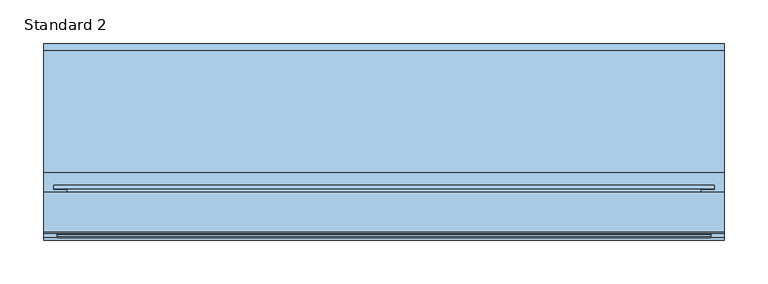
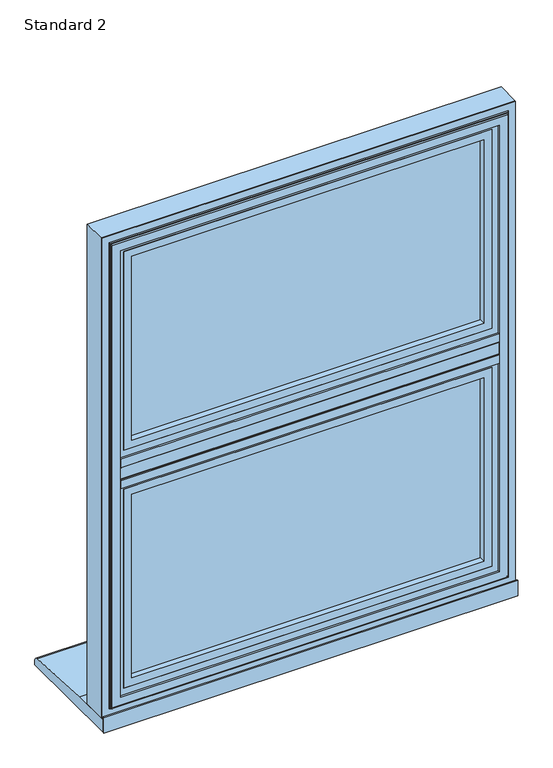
"""IFC4 building model written with IfcOpenShell, lengths in millimetres: window geometry, SMARTS_AlithermHeritage : Standard 2."""

from ifc_helpers import new_model, si_unit, point, frame, frame_2d, origin, place, context, project, spatial, polyline, circle_curve, ellipse_curve, trimmed, segment, composite_curve, outline, extrude, source, transform, mapped, element, save
from ifc_brep_helpers import plane_surface, cylinder_surface, revolved_surface, advanced_brep


def standard_2_19a095b1(model_context):
    return source(origin(), model_context, "Body", "SolidModel", [
        extrude(outline(polyline([(372.3058544, 95.2798432), (372.3058544, 47.279476), (-372.3058544, 47.279476), (-372.3058544, 95.2798432), (372.3058544, 95.2798432)])), frame((0.0, 0.0, 1098.8058544), z_axis=(0.0, 0.0, 1.0), x_axis=(1.0, 0.0, 0.0)), (0.0, 0.0, 1.0), 27.3882911),
        extrude(outline(composite_curve([segment(polyline([(47.279476, 1083.5), (43.2798432, 1083.5), (43.2798432, 1099.5)]), True, "CONTINUOUS"), segment(trimmed(circle_curve(frame_2d((44.2798432, 1099.5)), 1.0), [point((43.2798432, 1099.5))], [point((44.2798432, 1100.5))], False, "CARTESIAN"), True, "CONTINUOUS"), segment(polyline([(44.2798432, 1100.5), (45.7798432, 1100.5), (45.7798432, 1124.5), (44.2798432, 1124.5)]), True, "CONTINUOUS"), segment(trimmed(circle_curve(frame_2d((44.2798432, 1125.5)), 1.0), [point((44.2798432, 1124.5))], [point((43.2798432, 1125.5))], False, "CARTESIAN"), True, "CONTINUOUS"), segment(polyline([(43.2798432, 1125.5), (43.2798432, 1141.5), (47.279476, 1141.5), (47.279476, 1083.5)]), True, "CONTINUOUS")], self_intersect=False)), frame((-357.0, 0.0, 0.0), z_axis=(1.0, 0.0, 0.0), x_axis=(0.0, 1.0, 0.0)), (0.0, 0.0, 1.0), 714.0),
        extrude(outline(polyline([(-343.5, 89.2798432), (343.5, 89.2798432), (343.5, 85.2798432), (-343.5, 85.2798432), (-343.5, 89.2798432)])), frame((0.0, 0.0, 681.5), z_axis=(0.0, 0.0, 1.0), x_axis=(1.0, 0.0, 0.0)), (0.0, 0.0, 1.0), 388.5),
        extrude(outline(polyline([(-343.5, 69.2798432), (343.5, 69.2798432), (343.5, 65.2798432), (-343.5, 65.2798432), (-343.5, 69.2798432)])), frame((0.0, 0.0, 681.5), z_axis=(0.0, 0.0, 1.0), x_axis=(1.0, 0.0, 0.0)), (0.0, 0.0, 1.0), 388.5),
        extrude(outline(polyline([(1070.0, -343.5), (681.5, -343.5), (681.5, 343.5), (1070.0, 343.5), (1070.0, -343.5)]), holes=[polyline([(1060.0, 333.5), (691.5, 333.5), (691.5, -333.5), (1060.0, -333.5), (1060.0, 333.5)])]), frame((0.0, 69.2798432, 0.0), z_axis=(0.0, 1.0, 0.0), x_axis=(0.0, 0.0, 1.0)), (0.0, 0.0, 1.0), 16.0),
        extrude(outline(polyline([(1073.5052956, -347.0052956), (677.9947044, -347.0052956), (677.9947044, 347.0052956), (1073.5052956, 347.0052956), (1073.5052956, -347.0052956)]), holes=[polyline([(1058.5, 332.0), (693.0, 332.0), (693.0, -332.0), (1058.5, -332.0), (1058.5, 332.0)])]), frame((0.0, 51.2798432, 0.0), z_axis=(0.0, 1.0, 0.0), x_axis=(0.0, 0.0, 1.0)), (0.0, 0.0, 1.0), 11.3),
        extrude(outline(polyline([(662.3548042, -362.6451958), (662.3548042, 362.6451958), (1089.1451958, 362.6451958), (1089.1451958, -362.6451958), (662.3548042, -362.6451958)]), holes=[polyline([(1073.5, -347.0), (1073.5, 347.0), (678.0, 347.0), (678.0, -347.0), (1073.5, -347.0)])]), frame((0.0, 51.2798432, 0.0), z_axis=(0.0, 1.0, 0.0), x_axis=(0.0, 0.0, 1.0)), (0.0, 0.0, 1.0), 41.6),
        advanced_brep(
        [(-332.0, 98.0798432, 1058.5), (-332.0, 92.8798432, 1058.5), (-332.0, 92.8798432, 693.0), (-332.0, 98.0798432, 693.0), (332.0, 92.8798432, 693.0), (332.0, 98.0798432, 693.0), (332.0, 92.8798432, 1058.5), (332.0, 98.0798432, 1058.5), (-378.2, 99.2798432, 1104.7), (-378.2, 103.2798432, 1104.7), (-378.2, 103.2798432, 646.8), (-378.2, 99.2798432, 646.8), (378.2, 103.2798432, 646.8), (378.2, 99.2798432, 646.8), (378.2, 103.2798432, 1104.7), (378.2, 99.2798432, 1104.7), (-363.1467657, 99.2798432, 1089.6467657), (363.1467657, 99.2798432, 1089.6467657), (363.1467657, 99.2798432, 661.8532343), (-363.1467657, 99.2798432, 661.8532343), (-349.2, 103.2798432, 675.8), (349.2, 103.2798432, 675.8), (349.2, 103.2798432, 1075.7), (-349.2, 103.2798432, 1075.7), (-363.1467657, 92.8798432, 1089.6467657), (-363.1467657, 92.8798432, 661.8532343), (363.1467657, 92.8798432, 661.8532343), (363.1467657, 92.8798432, 1089.6467657), (-347.2, 101.2798432, 1073.7), (-347.2, 100.0798432, 1073.7), (-347.2, 100.0798432, 677.8), (-347.2, 101.2798432, 677.8), (-345.2, 98.0798432, 1071.7), (-345.2, 98.0798432, 679.8), (347.2, 100.0798432, 677.8), (347.2, 101.2798432, 677.8), (345.2, 98.0798432, 679.8), (347.2, 100.0798432, 1073.7), (347.2, 101.2798432, 1073.7), (345.2, 98.0798432, 1071.7)],
        [
            (0, 1),
            (1, 2),
            (2, 3),
            (3, 0),
            (2, 4),
            (4, 5),
            (5, 3),
            (4, 6),
            (6, 7),
            (7, 5),
            (6, 1),
            (0, 7),
            (8, 9),
            (9, 10),
            (10, 11),
            (11, 8),
            (10, 12),
            (12, 13),
            (13, 11),
            (12, 14),
            (14, 15),
            (15, 13),
            (15, 8),
            (16, 17),
            (17, 18),
            (18, 19),
            (19, 16),
            (14, 9),
            (20, 21),
            (21, 22),
            (22, 23),
            (23, 20),
            (24, 16),
            (19, 25),
            (25, 24),
            (18, 26),
            (26, 25),
            (17, 27),
            (27, 26),
            (27, 24),
            (28, 29),
            (29, 30),
            (30, 31),
            (31, 28),
            (29, 32, ellipse_curve(frame((-345.2, 100.0798432, 1071.7), z_axis=(0.7071067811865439, 0.0, 0.7071067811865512), x_axis=(0.7071067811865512, 0.0, -0.7071067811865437)), 2.8284271, 2.0)),
            (32, 33),
            (33, 30, ellipse_curve(frame((-345.2, 100.0798432, 679.8), z_axis=(0.7071067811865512, 0.0, -0.7071067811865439), x_axis=(-0.7071067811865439, 0.0, -0.707106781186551)), 2.8284271, 2.0)),
            (30, 34),
            (34, 35),
            (35, 31),
            (33, 36),
            (36, 34, ellipse_curve(frame((345.2, 100.0798432, 679.8), z_axis=(0.7071067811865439, 0.0, 0.7071067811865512), x_axis=(0.707106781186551, 0.0, -0.7071067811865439)), 2.8284271, 2.0)),
            (34, 37),
            (37, 38),
            (38, 35),
            (36, 39),
            (39, 37, ellipse_curve(frame((345.2, 100.0798432, 1071.7), z_axis=(-0.7071067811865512, 0.0, 0.7071067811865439), x_axis=(0.7071067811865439, 0.0, 0.707106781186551)), 2.8284271, 2.0)),
            (32, 39),
            (37, 29),
            (28, 38),
            (23, 28, ellipse_curve(frame((-349.2, 101.2798432, 1075.7), z_axis=(-0.7071067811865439, 0.0, -0.7071067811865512), x_axis=(-0.7071067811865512, 0.0, 0.7071067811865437)), 2.8284271, 2.0)),
            (31, 20, ellipse_curve(frame((-349.2, 101.2798432, 675.8), z_axis=(-0.7071067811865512, 0.0, 0.7071067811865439), x_axis=(0.7071067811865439, 0.0, 0.707106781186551)), 2.8284271, 2.0)),
            (35, 21, ellipse_curve(frame((349.2, 101.2798432, 675.8), z_axis=(-0.7071067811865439, 0.0, -0.7071067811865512), x_axis=(-0.707106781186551, 0.0, 0.7071067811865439)), 2.8284271, 2.0)),
            (38, 22, ellipse_curve(frame((349.2, 101.2798432, 1075.7), z_axis=(0.7071067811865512, 0.0, -0.7071067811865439), x_axis=(-0.7071067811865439, 0.0, -0.707106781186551)), 2.8284271, 2.0)),
        ],
        [
            plane_surface(frame((-332.0, 92.8798432, 1058.5), z_axis=(1.0, 0.0, 0.0), x_axis=(0.0, 0.0, -1.0))),
            plane_surface(frame((-332.0, 92.8798432, 693.0), z_axis=(0.0, 0.0, 1.0), x_axis=(1.0, 0.0, 0.0))),
            plane_surface(frame((332.0, 92.8798432, 693.0), z_axis=(-1.0, 0.0, 0.0), x_axis=(0.0, 0.0, 1.0))),
            plane_surface(frame((332.0, 92.8798432, 1058.5), z_axis=(0.0, 0.0, -1.0), x_axis=(-1.0, 0.0, 0.0))),
            plane_surface(frame((-378.2, 103.2798432, 1104.7), z_axis=(-1.0, 0.0, 0.0), x_axis=(0.0, 0.0, -1.0))),
            plane_surface(frame((-378.2, 103.2798432, 646.8), z_axis=(0.0, 0.0, -1.0), x_axis=(1.0, 0.0, 0.0))),
            plane_surface(frame((378.2, 103.2798432, 646.8), z_axis=(1.0, 0.0, 0.0), x_axis=(0.0, 0.0, 1.0))),
            plane_surface(frame((378.2, 99.2798432, 1104.7), z_axis=(0.0, -1.0, 0.0), x_axis=(-1.0, 0.0, 0.0))),
            plane_surface(frame((378.2, 103.2798432, 1104.7), z_axis=(0.0, 0.0, 1.0), x_axis=(-1.0, 0.0, 0.0))),
            plane_surface(frame((349.2, 103.2798432, 1075.7), z_axis=(0.0, 1.0, 0.0), x_axis=(-1.0, 0.0, 0.0))),
            plane_surface(frame((-363.1467657, 99.2798432, 1089.6467657), z_axis=(-1.0, 0.0, 0.0), x_axis=(0.0, 0.0, -1.0))),
            plane_surface(frame((-363.1467657, 99.2798432, 661.8532343), z_axis=(0.0, 0.0, -1.0), x_axis=(1.0, 0.0, 0.0))),
            plane_surface(frame((363.1467657, 99.2798432, 661.8532343), z_axis=(1.0, 0.0, 0.0), x_axis=(0.0, 0.0, 1.0))),
            plane_surface(frame((363.1467657, 92.8798432, 1089.6467657), z_axis=(0.0, -1.0, 0.0), x_axis=(-1.0, 0.0, 0.0))),
            plane_surface(frame((363.1467657, 99.2798432, 1089.6467657), z_axis=(0.0, 0.0, 1.0), x_axis=(-1.0, 0.0, 0.0))),
            plane_surface(frame((-347.2, 100.0798432, 1073.7), z_axis=(1.0, 0.0, 0.0), x_axis=(0.0, 0.0, -1.0))),
            revolved_surface(polyline([(-347.2, 100.0798432, 677.8), (-347.2, 100.0798432, 1073.7)]), (-345.2, 100.0798432, 1083.5), (0.0, 0.0, -1.0)),
            plane_surface(frame((-347.2, 100.0798432, 677.8), z_axis=(0.0, 0.0, 1.0), x_axis=(1.0, 0.0, 0.0))),
            revolved_surface(polyline([(347.20000000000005, 100.0798432, 677.8), (-347.2, 100.0798432, 677.8)]), (-357.0, 100.0798432, 679.8), (1.0, 0.0, 0.0)),
            plane_surface(frame((347.2, 100.0798432, 677.8), z_axis=(-1.0, 0.0, 0.0), x_axis=(0.0, 0.0, 1.0))),
            revolved_surface(polyline([(347.2, 100.0798432, 1073.7), (347.2, 100.0798432, 677.8)]), (345.2, 100.0798432, 668.0), (0.0, 0.0, 1.0)),
            plane_surface(frame((332.0, 98.0798432, 1058.5), z_axis=(0.0, 1.0, 0.0), x_axis=(-1.0, 0.0, 0.0))),
            plane_surface(frame((347.2, 100.0798432, 1073.7), z_axis=(0.0, 0.0, -1.0), x_axis=(-1.0, 0.0, 0.0))),
            revolved_surface(polyline([(-347.20000000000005, 100.0798432, 1073.7), (347.2, 100.0798432, 1073.7)]), (357.0, 100.0798432, 1071.7), (-1.0, 0.0, 0.0)),
            cylinder_surface(frame((-349.2, 101.2798432, 1083.5), z_axis=(0.0, 0.0, 1.0), x_axis=(-1.0, 0.0, 0.0)), 2.0),
            cylinder_surface(frame((-357.0, 101.2798432, 675.8), z_axis=(-1.0, 0.0, 0.0), x_axis=(0.0, 0.0, -1.0)), 2.0),
            cylinder_surface(frame((349.2, 101.2798432, 668.0), z_axis=(0.0, 0.0, -1.0), x_axis=(1.0, 0.0, 0.0)), 2.0),
            cylinder_surface(frame((357.0, 101.2798432, 1075.7), z_axis=(1.0, 0.0, 0.0), x_axis=(0.0, 0.0, 1.0)), 2.0),
        ],
        [
            (0, [[1, 2, 3, 4]]),
            (1, [[-3, 5, 6, 7]]),
            (2, [[-6, 8, 9, 10]]),
            (3, [[-9, 11, -1, 12]]),
            (4, [[13, 14, 15, 16]]),
            (5, [[-15, 17, 18, 19]]),
            (6, [[-18, 20, 21, 22]]),
            (7, [[-19, -22, 23, -16], [24, 25, 26, 27]]),
            (8, [[-21, 28, -13, -23]]),
            (9, [[-28, -20, -17, -14], [29, 30, 31, 32]]),
            (10, [[33, -27, 34, 35]]),
            (11, [[-34, -26, 36, 37]]),
            (12, [[-36, -25, 38, 39]]),
            (13, [[-37, -39, 40, -35], [-11, -8, -5, -2]]),
            (14, [[-38, -24, -33, -40]]),
            (15, [[41, 42, 43, 44]]),
            (16, [[45, 46, 47, -42]]),
            (17, [[-43, 48, 49, 50]]),
            (18, [[-47, 51, 52, -48]]),
            (19, [[-49, 53, 54, 55]]),
            (20, [[-52, 56, 57, -53]]),
            (21, [[58, -56, -51, -46], [-7, -10, -12, -4]]),
            (22, [[-54, 59, -41, 60]]),
            (23, [[-57, -58, -45, -59]]),
            (24, [[61, -44, 62, -32]]),
            (25, [[-62, -50, 63, -29]]),
            (26, [[-63, -55, 64, -30]]),
            (27, [[-64, -60, -61, -31]]),
        ],
    ),
        extrude(outline(polyline([(1590.0, 390.0), (1590.0, -390.0), (635.0, -390.0), (635.0, 390.0), (1590.0, 390.0)]), holes=[polyline([(652.7000182, 372.2999818), (652.7000182, -372.2999818), (1572.2999818, -372.2999818), (1572.2999818, 372.2999818), (652.7000182, 372.2999818)])]), frame((0.0, 50.279857, 0.0), z_axis=(0.0, 1.0, 0.0), x_axis=(0.0, 0.0, 1.0)), (0.0, 0.0, 1.0), 44.9999962),
        advanced_brep(
        [(357.0, 43.2798432, 1557.0), (357.0, 47.2798432, 1557.0), (357.0, 47.2798432, 668.0), (357.0, 43.2798432, 668.0), (390.0, 50.279857, 1590.0), (390.0, 48.279857, 1590.0), (390.0, 48.279857, 635.0), (390.0, 50.279857, 635.0), (372.4999818, 43.2798432, 1572.4999818), (-372.4999818, 43.2798432, 1572.4999818), (-372.4999818, 43.2798432, 652.5000182), (372.4999818, 43.2798432, 652.5000182), (-357.0, 43.2798432, 668.0), (-357.0, 43.2798432, 1557.0), (-390.0, 50.279857, 1590.0), (-390.0, 48.279857, 1590.0), (-390.0, 50.279857, 635.0), (372.2999818, 50.279857, 1572.2999818), (-372.2999818, 50.279857, 1572.2999818), (-372.2999818, 50.279857, 652.7000182), (372.2999818, 50.279857, 652.7000182), (-357.0, 47.2798432, 1557.0), (-357.0, 47.2798432, 668.0), (-390.0, 48.279857, 635.0), (-372.2999818, 47.2798432, 1572.2999818), (372.2999818, 47.2798432, 1572.2999818), (372.2999818, 47.2798432, 652.7000182), (374.4999818, 46.779857, 650.5000182), (374.4999818, 45.2798432, 650.5000182), (-374.4999818, 45.2798432, 650.5000182), (-374.4999818, 46.779857, 650.5000182), (374.4999818, 46.779857, 1574.4999818), (374.4999818, 45.2798432, 1574.4999818), (-372.2999818, 47.2798432, 652.7000182), (-374.4999818, 45.2798432, 1574.4999818), (-374.4999818, 46.779857, 1574.4999818), (375.9999818, 48.279857, 1575.9999818), (375.9999818, 48.279857, 649.0000182), (-375.9999818, 48.279857, 649.0000182), (-375.9999818, 48.279857, 1575.9999818)],
        [
            (0, 1),
            (1, 2),
            (2, 3),
            (3, 0),
            (4, 5),
            (5, 6),
            (6, 7),
            (7, 4),
            (8, 9),
            (9, 10),
            (10, 11),
            (11, 8),
            (3, 12),
            (12, 13),
            (13, 0),
            (14, 15),
            (15, 5),
            (4, 14),
            (7, 16),
            (16, 14),
            (17, 18),
            (18, 19),
            (19, 20),
            (20, 17),
            (13, 21),
            (21, 1),
            (2, 22),
            (22, 12),
            (22, 21),
            (6, 23),
            (23, 16),
            (23, 15),
            (24, 18),
            (17, 25),
            (25, 24),
            (20, 26),
            (26, 25),
            (27, 28),
            (28, 29),
            (29, 30),
            (30, 27),
            (31, 32),
            (32, 28),
            (27, 31),
            (19, 33),
            (33, 26),
            (24, 33),
            (29, 34),
            (34, 35),
            (35, 30),
            (34, 32),
            (31, 35),
            (36, 31, ellipse_curve(frame((375.9999818, 46.779857, 1575.9999818), z_axis=(-0.7071067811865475, 0.0, 0.7071067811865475), x_axis=(-0.7071067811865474, 0.0, -0.7071067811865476)), 2.1213203, 1.5)),
            (27, 37, ellipse_curve(frame((375.9999818, 46.779857, 649.0000182), z_axis=(-0.7071067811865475, 0.0, -0.7071067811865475), x_axis=(0.7071067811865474, 0.0, -0.7071067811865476)), 2.1213203, 1.5)),
            (37, 36),
            (30, 38, ellipse_curve(frame((-375.9999818, 46.779857, 649.0000182), z_axis=(-0.7071067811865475, 0.0, 0.7071067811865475), x_axis=(-0.7071067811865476, 0.0, -0.7071067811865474)), 2.1213203, 1.5)),
            (38, 37),
            (35, 39, ellipse_curve(frame((-375.9999818, 46.779857, 1575.9999818), z_axis=(0.7071067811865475, 0.0, 0.7071067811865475), x_axis=(-0.7071067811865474, 0.0, 0.7071067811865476)), 2.1213203, 1.5)),
            (39, 38),
            (36, 39),
            (32, 8, ellipse_curve(frame((372.4999818, 45.2798432, 1572.4999818), z_axis=(0.7071067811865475, 0.0, -0.7071067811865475), x_axis=(0.7071067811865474, 0.0, 0.7071067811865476)), 2.8284271, 2.0)),
            (11, 28, ellipse_curve(frame((372.4999818, 45.2798432, 652.5000182), z_axis=(0.7071067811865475, 0.0, 0.7071067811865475), x_axis=(-0.7071067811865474, 0.0, 0.7071067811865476)), 2.8284271, 2.0)),
            (10, 29, ellipse_curve(frame((-372.4999818, 45.2798432, 652.5000182), z_axis=(0.7071067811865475, 0.0, -0.7071067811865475), x_axis=(0.7071067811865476, 0.0, 0.7071067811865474)), 2.8284271, 2.0)),
            (9, 34, ellipse_curve(frame((-372.4999818, 45.2798432, 1572.4999818), z_axis=(-0.7071067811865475, 0.0, -0.7071067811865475), x_axis=(0.7071067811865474, 0.0, -0.7071067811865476)), 2.8284271, 2.0)),
        ],
        [
            plane_surface(frame((357.0, 47.2798432, 1557.0), z_axis=(-1.0, 0.0, 0.0), x_axis=(0.0, 0.0, -1.0))),
            plane_surface(frame((390.0, 48.279857, 1590.0), z_axis=(1.0, 0.0, 0.0), x_axis=(0.0, 0.0, -1.0))),
            plane_surface(frame((-357.0, 43.2798432, 1557.0), z_axis=(0.0, -1.0, 0.0), x_axis=(1.0, 0.0, 0.0))),
            plane_surface(frame((-390.0, 48.279857, 1590.0), z_axis=(0.0, 0.0, 1.0), x_axis=(1.0, 0.0, 0.0))),
            plane_surface(frame((-390.0, 50.279857, 1590.0), z_axis=(0.0, 1.0, 0.0), x_axis=(1.0, 0.0, 0.0))),
            plane_surface(frame((-357.0, 47.2798432, 1557.0), z_axis=(0.0, 0.0, -1.0), x_axis=(1.0, 0.0, 0.0))),
            plane_surface(frame((357.0, 47.2798432, 668.0), z_axis=(0.0, 0.0, 1.0), x_axis=(-1.0, 0.0, 0.0))),
            plane_surface(frame((-357.0, 47.2798432, 668.0), z_axis=(1.0, 0.0, 0.0), x_axis=(0.0, 0.0, 1.0))),
            plane_surface(frame((390.0, 48.279857, 635.0), z_axis=(0.0, 0.0, -1.0), x_axis=(-1.0, 0.0, 0.0))),
            plane_surface(frame((-390.0, 48.279857, 635.0), z_axis=(-1.0, 0.0, 0.0), x_axis=(0.0, 0.0, 1.0))),
            plane_surface(frame((-372.2999818, 50.279857, 1572.2999818), z_axis=(0.0, 0.0, -1.0), x_axis=(1.0, 0.0, 0.0))),
            plane_surface(frame((372.2999818, 50.279857, 1572.2999818), z_axis=(-1.0, 0.0, 0.0), x_axis=(0.0, 0.0, -1.0))),
            plane_surface(frame((374.4999818, 45.2798432, 650.5000182), z_axis=(0.0, 0.0, -1.0), x_axis=(-1.0, 0.0, 0.0))),
            plane_surface(frame((374.4999818, 45.2798432, 1574.4999818), z_axis=(1.0, 0.0, 0.0), x_axis=(0.0, 0.0, -1.0))),
            plane_surface(frame((372.2999818, 50.279857, 652.7000182), z_axis=(0.0, 0.0, 1.0), x_axis=(-1.0, 0.0, 0.0))),
            plane_surface(frame((-372.2999818, 50.279857, 652.7000182), z_axis=(1.0, 0.0, 0.0), x_axis=(0.0, 0.0, 1.0))),
            plane_surface(frame((-374.4999818, 45.2798432, 650.5000182), z_axis=(-1.0, 0.0, 0.0), x_axis=(0.0, 0.0, 1.0))),
            plane_surface(frame((-372.2999818, 47.2798432, 1572.2999818), z_axis=(0.0, 1.0, 0.0), x_axis=(1.0, 0.0, 0.0))),
            plane_surface(frame((-374.4999818, 45.2798432, 1574.4999818), z_axis=(0.0, 0.0, 1.0), x_axis=(1.0, 0.0, 0.0))),
            revolved_surface(polyline([(374.4999818, 46.779857, 647.5000182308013), (374.4999818, 46.779857, 1577.4999817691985)]), (375.9999818, 46.779857, 1590.0), (0.0, 0.0, -1.0)),
            revolved_surface(polyline([(-377.4999817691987, 46.779857, 650.5000182), (377.49998176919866, 46.779857, 650.5000182)]), (390.0, 46.779857, 649.0000182), (-1.0, 0.0, 0.0)),
            revolved_surface(polyline([(-374.4999818, 46.779857, 1577.4999817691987), (-374.4999818, 46.779857, 647.5000182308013)]), (-375.9999818, 46.779857, 635.0), (0.0, 0.0, 1.0)),
            revolved_surface(polyline([(377.4999817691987, 46.779857, 1574.4999818), (-377.49998176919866, 46.779857, 1574.4999818)]), (-390.0, 46.779857, 1575.9999818), (1.0, 0.0, 0.0)),
            plane_surface(frame((-375.9999818, 48.279857, 1575.9999818), z_axis=(0.0, -1.0, 0.0), x_axis=(1.0, 0.0, 0.0))),
            cylinder_surface(frame((372.4999818, 45.2798432, 1590.0), z_axis=(0.0, 0.0, 1.0), x_axis=(-1.0, 0.0, 0.0)), 2.0),
            cylinder_surface(frame((390.0, 45.2798432, 652.5000182), z_axis=(1.0, 0.0, 0.0), x_axis=(0.0, 0.0, 1.0)), 2.0),
            cylinder_surface(frame((-372.4999818, 45.2798432, 635.0), z_axis=(0.0, 0.0, -1.0), x_axis=(1.0, 0.0, 0.0)), 2.0),
            cylinder_surface(frame((-390.0, 45.2798432, 1572.4999818), z_axis=(-1.0, 0.0, 0.0), x_axis=(0.0, 0.0, -1.0)), 2.0),
        ],
        [
            (0, [[1, 2, 3, 4]]),
            (1, [[5, 6, 7, 8]]),
            (2, [[9, 10, 11, 12], [13, 14, 15, -4]]),
            (3, [[16, 17, -5, 18]]),
            (4, [[19, 20, -18, -8], [21, 22, 23, 24]]),
            (5, [[25, 26, -1, -15]]),
            (6, [[-3, 27, 28, -13]]),
            (7, [[-28, 29, -25, -14]]),
            (8, [[-7, 30, 31, -19]]),
            (9, [[-31, 32, -16, -20]]),
            (10, [[33, -21, 34, 35]]),
            (11, [[-34, -24, 36, 37]]),
            (12, [[38, 39, 40, 41]]),
            (13, [[42, 43, -38, 44]]),
            (14, [[-36, -23, 45, 46]]),
            (15, [[-45, -22, -33, 47]]),
            (16, [[-40, 48, 49, 50]]),
            (17, [[-46, -47, -35, -37], [-26, -29, -27, -2]]),
            (18, [[-49, 51, -42, 52]]),
            (19, [[53, -44, 54, 55]]),
            (20, [[-54, -41, 56, 57]]),
            (21, [[-56, -50, 58, 59]]),
            (22, [[-58, -52, -53, 60]]),
            (23, [[-17, -32, -30, -6], [-57, -59, -60, -55]]),
            (24, [[61, -12, 62, -43]]),
            (25, [[-62, -11, 63, -39]]),
            (26, [[-63, -10, 64, -48]]),
            (27, [[-64, -9, -61, -51]]),
        ],
    ),
        extrude(outline(polyline([(-343.5, 89.2798432), (343.5, 89.2798432), (343.5, 85.2798432), (-343.5, 85.2798432), (-343.5, 89.2798432)])), frame((0.0, 0.0, 1155.0), z_axis=(0.0, 0.0, 1.0), x_axis=(1.0, 0.0, 0.0)), (0.0, 0.0, 1.0), 388.5),
        extrude(outline(polyline([(-343.5, 69.2798432), (343.5, 69.2798432), (343.5, 65.2798432), (-343.5, 65.2798432), (-343.5, 69.2798432)])), frame((0.0, 0.0, 1155.0), z_axis=(0.0, 0.0, 1.0), x_axis=(1.0, 0.0, 0.0)), (0.0, 0.0, 1.0), 388.5),
        extrude(outline(polyline([(1543.5, -343.5), (1155.0, -343.5), (1155.0, 343.5), (1543.5, 343.5), (1543.5, -343.5)]), holes=[polyline([(1533.5, 333.5), (1165.0, 333.5), (1165.0, -333.5), (1533.5, -333.5), (1533.5, 333.5)])]), frame((0.0, 69.2798432, 0.0), z_axis=(0.0, 1.0, 0.0), x_axis=(0.0, 0.0, 1.0)), (0.0, 0.0, 1.0), 16.0),
        extrude(outline(polyline([(1547.0052956, -347.0052956), (1151.4947044, -347.0052956), (1151.4947044, 347.0052956), (1547.0052956, 347.0052956), (1547.0052956, -347.0052956)]), holes=[polyline([(1532.0, 332.0), (1166.5, 332.0), (1166.5, -332.0), (1532.0, -332.0), (1532.0, 332.0)])]), frame((0.0, 51.2798432, 0.0), z_axis=(0.0, 1.0, 0.0), x_axis=(0.0, 0.0, 1.0)), (0.0, 0.0, 1.0), 11.3),
        extrude(outline(polyline([(1135.8548042, -362.6451958), (1135.8548042, 362.6451958), (1562.6451958, 362.6451958), (1562.6451958, -362.6451958), (1135.8548042, -362.6451958)]), holes=[polyline([(1547.0, -347.0), (1547.0, 347.0), (1151.5, 347.0), (1151.5, -347.0), (1547.0, -347.0)])]), frame((0.0, 51.2798432, 0.0), z_axis=(0.0, 1.0, 0.0), x_axis=(0.0, 0.0, 1.0)), (0.0, 0.0, 1.0), 41.6),
        advanced_brep(
        [(-332.0, 98.0798432, 1532.0), (-332.0, 92.8798432, 1532.0), (-332.0, 92.8798432, 1166.5), (-332.0, 98.0798432, 1166.5), (332.0, 92.8798432, 1166.5), (332.0, 98.0798432, 1166.5), (332.0, 92.8798432, 1532.0), (332.0, 98.0798432, 1532.0), (-378.2, 99.2798432, 1578.2), (-378.2, 103.2798432, 1578.2), (-378.2, 103.2798432, 1120.3), (-378.2, 99.2798432, 1120.3), (378.2, 103.2798432, 1120.3), (378.2, 99.2798432, 1120.3), (378.2, 103.2798432, 1578.2), (378.2, 99.2798432, 1578.2), (-363.1467657, 99.2798432, 1563.1467657), (363.1467657, 99.2798432, 1563.1467657), (363.1467657, 99.2798432, 1135.3532343), (-363.1467657, 99.2798432, 1135.3532343), (-349.2, 103.2798432, 1149.3), (349.2, 103.2798432, 1149.3), (349.2, 103.2798432, 1549.2), (-349.2, 103.2798432, 1549.2), (-363.1467657, 92.8798432, 1563.1467657), (-363.1467657, 92.8798432, 1135.3532343), (363.1467657, 92.8798432, 1135.3532343), (363.1467657, 92.8798432, 1563.1467657), (-347.2, 101.2798432, 1547.2), (-347.2, 100.0798432, 1547.2), (-347.2, 100.0798432, 1151.3), (-347.2, 101.2798432, 1151.3), (-345.2, 98.0798432, 1545.2), (-345.2, 98.0798432, 1153.3), (347.2, 100.0798432, 1151.3), (347.2, 101.2798432, 1151.3), (345.2, 98.0798432, 1153.3), (347.2, 100.0798432, 1547.2), (347.2, 101.2798432, 1547.2), (345.2, 98.0798432, 1545.2)],
        [
            (0, 1),
            (1, 2),
            (2, 3),
            (3, 0),
            (2, 4),
            (4, 5),
            (5, 3),
            (4, 6),
            (6, 7),
            (7, 5),
            (6, 1),
            (0, 7),
            (8, 9),
            (9, 10),
            (10, 11),
            (11, 8),
            (10, 12),
            (12, 13),
            (13, 11),
            (12, 14),
            (14, 15),
            (15, 13),
            (15, 8),
            (16, 17),
            (17, 18),
            (18, 19),
            (19, 16),
            (14, 9),
            (20, 21),
            (21, 22),
            (22, 23),
            (23, 20),
            (24, 16),
            (19, 25),
            (25, 24),
            (18, 26),
            (26, 25),
            (17, 27),
            (27, 26),
            (27, 24),
            (28, 29),
            (29, 30),
            (30, 31),
            (31, 28),
            (29, 32, ellipse_curve(frame((-345.2, 100.0798432, 1545.2), z_axis=(0.7071067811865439, 0.0, 0.7071067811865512), x_axis=(0.7071067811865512, 0.0, -0.7071067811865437)), 2.8284271, 2.0)),
            (32, 33),
            (33, 30, ellipse_curve(frame((-345.2, 100.0798432, 1153.3), z_axis=(0.7071067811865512, 0.0, -0.7071067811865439), x_axis=(-0.7071067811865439, 0.0, -0.707106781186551)), 2.8284271, 2.0)),
            (30, 34),
            (34, 35),
            (35, 31),
            (33, 36),
            (36, 34, ellipse_curve(frame((345.2, 100.0798432, 1153.3), z_axis=(0.7071067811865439, 0.0, 0.7071067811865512), x_axis=(0.707106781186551, 0.0, -0.7071067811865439)), 2.8284271, 2.0)),
            (34, 37),
            (37, 38),
            (38, 35),
            (36, 39),
            (39, 37, ellipse_curve(frame((345.2, 100.0798432, 1545.2), z_axis=(-0.7071067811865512, 0.0, 0.7071067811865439), x_axis=(0.7071067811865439, 0.0, 0.707106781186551)), 2.8284271, 2.0)),
            (32, 39),
            (37, 29),
            (28, 38),
            (23, 28, ellipse_curve(frame((-349.2, 101.2798432, 1549.2), z_axis=(-0.7071067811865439, 0.0, -0.7071067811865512), x_axis=(-0.7071067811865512, 0.0, 0.7071067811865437)), 2.8284271, 2.0)),
            (31, 20, ellipse_curve(frame((-349.2, 101.2798432, 1149.3), z_axis=(-0.7071067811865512, 0.0, 0.7071067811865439), x_axis=(0.7071067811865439, 0.0, 0.707106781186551)), 2.8284271, 2.0)),
            (35, 21, ellipse_curve(frame((349.2, 101.2798432, 1149.3), z_axis=(-0.7071067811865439, 0.0, -0.7071067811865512), x_axis=(-0.707106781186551, 0.0, 0.7071067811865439)), 2.8284271, 2.0)),
            (38, 22, ellipse_curve(frame((349.2, 101.2798432, 1549.2), z_axis=(0.7071067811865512, 0.0, -0.7071067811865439), x_axis=(-0.7071067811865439, 0.0, -0.707106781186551)), 2.8284271, 2.0)),
        ],
        [
            plane_surface(frame((-332.0, 92.8798432, 1532.0), z_axis=(1.0, 0.0, 0.0), x_axis=(0.0, 0.0, -1.0))),
            plane_surface(frame((-332.0, 92.8798432, 1166.5), z_axis=(0.0, 0.0, 1.0), x_axis=(1.0, 0.0, 0.0))),
            plane_surface(frame((332.0, 92.8798432, 1166.5), z_axis=(-1.0, 0.0, 0.0), x_axis=(0.0, 0.0, 1.0))),
            plane_surface(frame((332.0, 92.8798432, 1532.0), z_axis=(0.0, 0.0, -1.0), x_axis=(-1.0, 0.0, 0.0))),
            plane_surface(frame((-378.2, 103.2798432, 1578.2), z_axis=(-1.0, 0.0, 0.0), x_axis=(0.0, 0.0, -1.0))),
            plane_surface(frame((-378.2, 103.2798432, 1120.3), z_axis=(0.0, 0.0, -1.0), x_axis=(1.0, 0.0, 0.0))),
            plane_surface(frame((378.2, 103.2798432, 1120.3), z_axis=(1.0, 0.0, 0.0), x_axis=(0.0, 0.0, 1.0))),
            plane_surface(frame((378.2, 99.2798432, 1578.2), z_axis=(0.0, -1.0, 0.0), x_axis=(-1.0, 0.0, 0.0))),
            plane_surface(frame((378.2, 103.2798432, 1578.2), z_axis=(0.0, 0.0, 1.0), x_axis=(-1.0, 0.0, 0.0))),
            plane_surface(frame((349.2, 103.2798432, 1549.2), z_axis=(0.0, 1.0, 0.0), x_axis=(-1.0, 0.0, 0.0))),
            plane_surface(frame((-363.1467657, 99.2798432, 1563.1467657), z_axis=(-1.0, 0.0, 0.0), x_axis=(0.0, 0.0, -1.0))),
            plane_surface(frame((-363.1467657, 99.2798432, 1135.3532343), z_axis=(0.0, 0.0, -1.0), x_axis=(1.0, 0.0, 0.0))),
            plane_surface(frame((363.1467657, 99.2798432, 1135.3532343), z_axis=(1.0, 0.0, 0.0), x_axis=(0.0, 0.0, 1.0))),
            plane_surface(frame((363.1467657, 92.8798432, 1563.1467657), z_axis=(0.0, -1.0, 0.0), x_axis=(-1.0, 0.0, 0.0))),
            plane_surface(frame((363.1467657, 99.2798432, 1563.1467657), z_axis=(0.0, 0.0, 1.0), x_axis=(-1.0, 0.0, 0.0))),
            plane_surface(frame((-347.2, 100.0798432, 1547.2), z_axis=(1.0, 0.0, 0.0), x_axis=(0.0, 0.0, -1.0))),
            revolved_surface(polyline([(-347.2, 100.0798432, 1151.3), (-347.2, 100.0798432, 1547.2)]), (-345.2, 100.0798432, 1557.0), (0.0, 0.0, -1.0)),
            plane_surface(frame((-347.2, 100.0798432, 1151.3), z_axis=(0.0, 0.0, 1.0), x_axis=(1.0, 0.0, 0.0))),
            revolved_surface(polyline([(347.20000000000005, 100.0798432, 1151.3), (-347.2, 100.0798432, 1151.3)]), (-357.0, 100.0798432, 1153.3), (1.0, 0.0, 0.0)),
            plane_surface(frame((347.2, 100.0798432, 1151.3), z_axis=(-1.0, 0.0, 0.0), x_axis=(0.0, 0.0, 1.0))),
            revolved_surface(polyline([(347.2, 100.0798432, 1547.2), (347.2, 100.0798432, 1151.3)]), (345.2, 100.0798432, 1141.5), (0.0, 0.0, 1.0)),
            plane_surface(frame((332.0, 98.0798432, 1532.0), z_axis=(0.0, 1.0, 0.0), x_axis=(-1.0, 0.0, 0.0))),
            plane_surface(frame((347.2, 100.0798432, 1547.2), z_axis=(0.0, 0.0, -1.0), x_axis=(-1.0, 0.0, 0.0))),
            revolved_surface(polyline([(-347.20000000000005, 100.0798432, 1547.2), (347.2, 100.0798432, 1547.2)]), (357.0, 100.0798432, 1545.2), (-1.0, 0.0, 0.0)),
            cylinder_surface(frame((-349.2, 101.2798432, 1557.0), z_axis=(0.0, 0.0, 1.0), x_axis=(-1.0, 0.0, 0.0)), 2.0),
            cylinder_surface(frame((-357.0, 101.2798432, 1149.3), z_axis=(-1.0, 0.0, 0.0), x_axis=(0.0, 0.0, -1.0)), 2.0),
            cylinder_surface(frame((349.2, 101.2798432, 1141.5), z_axis=(0.0, 0.0, -1.0), x_axis=(1.0, 0.0, 0.0)), 2.0),
            cylinder_surface(frame((357.0, 101.2798432, 1549.2), z_axis=(1.0, 0.0, 0.0), x_axis=(0.0, 0.0, 1.0)), 2.0),
        ],
        [
            (0, [[1, 2, 3, 4]]),
            (1, [[-3, 5, 6, 7]]),
            (2, [[-6, 8, 9, 10]]),
            (3, [[-9, 11, -1, 12]]),
            (4, [[13, 14, 15, 16]]),
            (5, [[-15, 17, 18, 19]]),
            (6, [[-18, 20, 21, 22]]),
            (7, [[-19, -22, 23, -16], [24, 25, 26, 27]]),
            (8, [[-21, 28, -13, -23]]),
            (9, [[-28, -20, -17, -14], [29, 30, 31, 32]]),
            (10, [[33, -27, 34, 35]]),
            (11, [[-34, -26, 36, 37]]),
            (12, [[-36, -25, 38, 39]]),
            (13, [[-37, -39, 40, -35], [-11, -8, -5, -2]]),
            (14, [[-38, -24, -33, -40]]),
            (15, [[41, 42, 43, 44]]),
            (16, [[45, 46, 47, -42]]),
            (17, [[-43, 48, 49, 50]]),
            (18, [[-47, 51, 52, -48]]),
            (19, [[-49, 53, 54, 55]]),
            (20, [[-52, 56, 57, -53]]),
            (21, [[58, -56, -51, -46], [-7, -10, -12, -4]]),
            (22, [[-54, 59, -41, 60]]),
            (23, [[-57, -58, -45, -59]]),
            (24, [[61, -44, 62, -32]]),
            (25, [[-62, -50, 63, -29]]),
            (26, [[-63, -55, 64, -30]]),
            (27, [[-64, -60, -61, -31]]),
        ],
    ),
        extrude(outline(polyline([(390.0, 43.2798432), (390.0, 40.7798432), (-390.0, 40.7798432), (-390.0, 43.2798432), (390.0, 43.2798432)])), frame((0.0, 0.0, 610.0), z_axis=(0.0, 0.0, 1.0), x_axis=(1.0, 0.0, 0.0)), (0.0, 0.0, 1.0), 31.0),
        extrude(outline(composite_curve([segment(polyline([(265.7798432, 610.0), (43.2798432, 610.0), (43.2798432, 635.0), (118.7798432, 635.0), (258.4770891, 625.9276664)]), True, "CONTINUOUS"), segment(trimmed(circle_curve(frame_2d((257.7798432, 617.9581088)), 8.0), [point((258.4770891, 625.9276664))], [point((265.7798432, 617.9581088))], False, "CARTESIAN"), True, "CONTINUOUS"), segment(polyline([(265.7798432, 617.9581088), (265.7798432, 610.0)]), True, "CONTINUOUS")], self_intersect=False)), frame((-390.0, 0.0, 0.0), z_axis=(1.0, 0.0, 0.0), x_axis=(0.0, 1.0, 0.0)), (0.0, 0.0, 1.0), 780.0),
    ])


if __name__ == "__main__":
    model = new_model("IFC4")
    model_context = context("Model", 3, world=origin())
    ifc_project = project(units=[si_unit("LENGTHUNIT", "METRE", prefix="MILLI")], contexts=[model_context])
    site = spatial("IfcSite", under=ifc_project)
    building = spatial("IfcBuilding", under=site)
    placement = place(None, origin())
    standard_2_shape = standard_2_19a095b1(model_context)
    element("IfcWindow", 1, ObjectType="SMARTS_AlithermHeritage : Standard 2", at=placement, inside=building, context=model_context, shape_type="MappedRepresentation", body=[
        mapped(standard_2_shape, transform((0.0, 0.0, 0.0), x_axis=(1.0, 0.0, 0.0), y_axis=(0.0, 1.0, 0.0), z_axis=(0.0, 0.0, 1.0))),
    ])
    save(model, "model.ifc")
